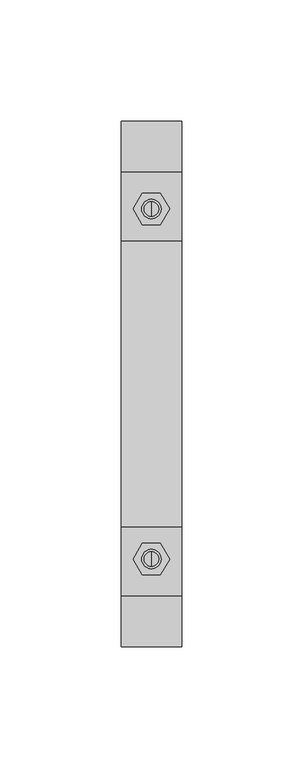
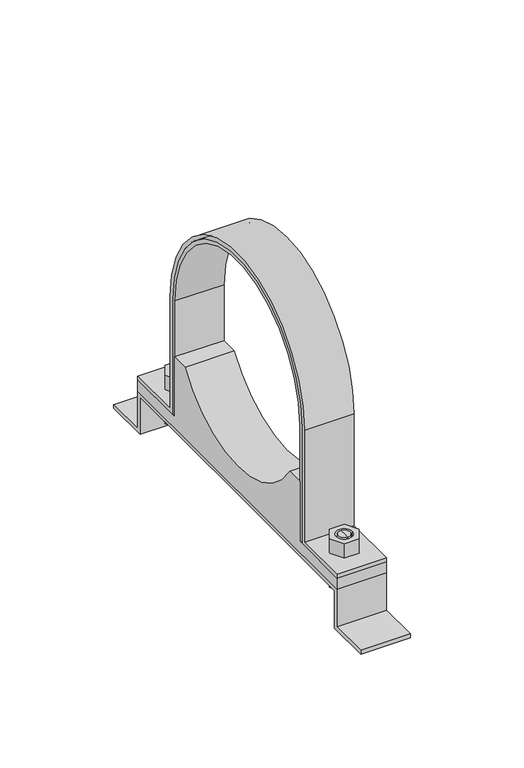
"""IFC4 building model written with IfcOpenShell, lengths in millimetres: valve geometry, Superfix DG3 Clamp : Superfix DG3 Clamp."""

import ifcopenshell
import ifcopenshell.guid

model = None  # the IFC model being written
_history = None  # IfcOwnerHistory: only IFC2X3 demands one
_inside = {}  # id of a spatial element -> (the spatial element, [elements in it])
_under = {}  # id of a project, library or spatial element -> (it, [spatial elements below it])
_declared = {}  # id of a project -> (the project, [libraries it declares])
_typed = {}  # id of a type object -> (the type object, [elements of that type])
_made_of = {}  # id of a material, layer set ... -> (it, [elements and type objects made of it])


def new_model(schema):
    """Start an empty IFC model of exactly this schema.

    Asked for "IFC4X3", IfcOpenShell would pick the latest addendum, in which some entities
    have other attributes; the version numbers below select the first issue.
    IFC2X3 requires an IfcOwnerHistory on every rooted entity: one is made here for all.
    """
    global model, _history
    if schema == "IFC4X3":
        model = ifcopenshell.file(schema_version=(4, 3, 0, 0))
    else:
        model = ifcopenshell.file(schema=schema)
    _inside.clear()
    _under.clear()
    _declared.clear()
    _typed.clear()
    _made_of.clear()
    _history = None
    if model.schema == "IFC2X3":
        org = make("IfcOrganization", Name="unknown")
        user = make(
            "IfcPersonAndOrganization",
            ThePerson=make("IfcPerson", FamilyName="unknown"),
            TheOrganization=org,
        )
        app = make(
            "IfcApplication",
            ApplicationDeveloper=org,
            Version="unknown",
            ApplicationFullName="unknown",
            ApplicationIdentifier="unknown",
        )
        _history = make(
            "IfcOwnerHistory",
            OwningUser=user,
            OwningApplication=app,
            ChangeAction="ADDED",
            CreationDate=0,
        )
    return model


def make(cls, **values):
    """One entity of the class cls with the attributes given. An attribute that is None is left unset."""
    return model.create_entity(
        cls, **{name: value for name, value in values.items() if value is not None}
    )


def rooted(cls, **values):
    """An entity with a GlobalId (a new one), such as an element, a storey or a relation."""
    return make(cls, GlobalId=ifcopenshell.guid.new(), OwnerHistory=_history, **values)


def si_unit(unit_type, name, prefix=None):
    """IfcSIUnit, for example si_unit("LENGTHUNIT", "METRE", prefix="MILLI")."""
    return make("IfcSIUnit", UnitType=unit_type, Prefix=prefix, Name=name)


def assignment(units):
    """IfcUnitAssignment: the units of a project."""
    return None if units is None else make("IfcUnitAssignment", Units=units)


def point(xyz):
    """IfcCartesianPoint."""
    return None if xyz is None else make("IfcCartesianPoint", Coordinates=xyz)


def direction(xyz):
    """IfcDirection."""
    return None if xyz is None else make("IfcDirection", DirectionRatios=xyz)


def frame(location, z_axis=None, x_axis=None):
    """IfcAxis2Placement3D, a coordinate frame: its origin and axes. An axis left out is left unset."""
    return make(
        "IfcAxis2Placement3D",
        Location=point(location),
        Axis=direction(z_axis),
        RefDirection=direction(x_axis),
    )


def frame_2d(location, x_axis=None):
    """IfcAxis2Placement2D, a coordinate frame in the plane: its origin and x axis."""
    return make(
        "IfcAxis2Placement2D", Location=point(location), RefDirection=direction(x_axis)
    )


def origin():
    """The frame at (0, 0, 0) with its axes left unset."""
    return frame((0.0, 0.0, 0.0))


def place(relative_to, where):
    """IfcLocalPlacement: puts the frame where relative to a parent placement (None: the world)."""
    return make(
        "IfcLocalPlacement", PlacementRelTo=relative_to, RelativePlacement=where
    )


def context(
    kind, dimensions, precision=None, world=None, true_north=None, identifier=None
):
    """IfcGeometricRepresentationContext, for example the 3D "Model" context."""
    return make(
        "IfcGeometricRepresentationContext",
        ContextIdentifier=identifier,
        ContextType=kind,
        CoordinateSpaceDimension=dimensions,
        Precision=precision,
        WorldCoordinateSystem=world,
        TrueNorth=true_north,
    )


def project(units=None, contexts=None):
    """IfcProject with its units and contexts."""
    return rooted(
        "IfcProject",
        Name="project",
        RepresentationContexts=contexts,
        UnitsInContext=assignment(units),
    )


def spatial(cls, under=None, at=None, **own):
    """A site, building, storey or space (cls), placed at a placement, below another one or the project."""
    s = rooted(cls, ObjectPlacement=at, **own)
    if under is not None:
        _under.setdefault(under.id(), (under, []))[1].append(s)
    return s


def polyline(points):
    """IfcPolyline through the points."""
    return make("IfcPolyline", Points=[point(p) for p in points])


def circle_curve(where, radius):
    """IfcCircle in the frame where."""
    return make("IfcCircle", Position=where, Radius=radius)


def trimmed(basis, trim1, trim2, sense, master):
    """IfcTrimmedCurve: the piece of a basis curve between two trims."""
    return make(
        "IfcTrimmedCurve",
        BasisCurve=basis,
        Trim1=trim1,
        Trim2=trim2,
        SenseAgreement=sense,
        MasterRepresentation=master,
    )


def segment(curve, same_sense, transition):
    """IfcCompositeCurveSegment."""
    return make(
        "IfcCompositeCurveSegment",
        Transition=transition,
        SameSense=same_sense,
        ParentCurve=curve,
    )


def composite_curve(segments, self_intersect=None):
    """IfcCompositeCurve: segments joined end to end."""
    return make("IfcCompositeCurve", Segments=segments, SelfIntersect=self_intersect)


def outline(outer, holes=None, kind="AREA"):
    """IfcArbitraryClosedProfileDef: a profile drawn as a closed curve; with holes, ...WithVoids."""
    if holes is None:
        return make("IfcArbitraryClosedProfileDef", ProfileType=kind, OuterCurve=outer)
    return make(
        "IfcArbitraryProfileDefWithVoids",
        ProfileType=kind,
        OuterCurve=outer,
        InnerCurves=holes,
    )


def extrude(swept, where, along, depth):
    """IfcExtrudedAreaSolid: the profile swept, set in the frame where, extruded along a direction by depth."""
    return make(
        "IfcExtrudedAreaSolid",
        SweptArea=swept,
        Position=where,
        ExtrudedDirection=direction(along),
        Depth=depth,
    )


def shape(context_of_items, identifier, shape_type, items):
    """IfcShapeRepresentation: the items that make up one representation, for example the "Body"."""
    return make(
        "IfcShapeRepresentation",
        ContextOfItems=context_of_items,
        RepresentationIdentifier=identifier,
        RepresentationType=shape_type,
        Items=items,
    )


def source(mapping_origin, context_of_items, identifier, shape_type, items):
    """IfcRepresentationMap: a shape defined once, which mapped items show again and again."""
    return make(
        "IfcRepresentationMap",
        MappingOrigin=mapping_origin,
        MappedRepresentation=shape(context_of_items, identifier, shape_type, items),
    )


def transform(
    local_origin,
    x_axis=None,
    y_axis=None,
    z_axis=None,
    scale=None,
    scale2=None,
    scale3=None,
    uniform=True,
):
    """IfcCartesianTransformationOperator3D, or its non-uniform kind. x_axis, y_axis, z_axis: its Axis1, 2, 3."""
    if uniform:
        return make(
            "IfcCartesianTransformationOperator3D",
            Axis1=direction(x_axis),
            Axis2=direction(y_axis),
            LocalOrigin=point(local_origin),
            Scale=scale,
            Axis3=direction(z_axis),
        )
    return make(
        "IfcCartesianTransformationOperator3DnonUniform",
        Axis1=direction(x_axis),
        Axis2=direction(y_axis),
        LocalOrigin=point(local_origin),
        Scale=scale,
        Axis3=direction(z_axis),
        Scale2=scale2,
        Scale3=scale3,
    )


def mapped(mapping_source, mapping_target):
    """IfcMappedItem: shows the shape of a source again, moved by a transform."""
    return make(
        "IfcMappedItem", MappingSource=mapping_source, MappingTarget=mapping_target
    )


def made_of(thing, what):
    """Note that an element or type object is made of a material, layer set ...; save() writes the relation."""
    if what is not None:
        _made_of.setdefault(what.id(), (what, []))[1].append(thing)
    return thing


def element(
    cls,
    number,
    at=None,
    inside=None,
    cuts=None,
    type_object=None,
    material=None,
    context=None,
    identifier="Body",
    shape_type=None,
    held_by="IfcProductDefinitionShape",
    body=None,
    shapes=None,
    **own,
):
    """One element of the class cls, such as IfcWall. Its Tag is "e" and its number.

    at: its placement. inside: the storey or other place that contains it. cuts: it is an
    opening in that element (IfcRelVoidsElement). A single representation is given by context,
    identifier, shape_type and body (its items); several are given by shapes. held_by: the class
    of the entity that holds the representations. save() writes the other relations.
    """
    e = rooted(cls, Tag="e%d" % number, ObjectPlacement=at, **own)
    if body is not None:
        shapes = [shape(context, identifier, shape_type, body)]
    if shapes is not None:
        e.Representation = make(held_by, Representations=shapes)
    if inside is not None:
        _inside.setdefault(inside.id(), (inside, []))[1].append(e)
    if cuts is not None:
        rooted(
            "IfcRelVoidsElement", RelatingBuildingElement=cuts, RelatedOpeningElement=e
        )
    if type_object is not None:
        _typed.setdefault(type_object.id(), (type_object, []))[1].append(e)
    return made_of(e, material)


def aggregate(whole, parts):
    """IfcRelAggregates: a whole, such as a stair, and the parts it consists of."""
    return rooted("IfcRelAggregates", RelatingObject=whole, RelatedObjects=parts)


def save(model, path):
    """Write the relations noted so far, then the file.

    IfcRelAggregates (storeys below a building ...), IfcRelContainedInSpatialStructure (elements
    in a storey), IfcRelDefinesByType, IfcRelAssociatesMaterial and IfcRelDeclares: one each for
    every whole, place, type object, material and project.
    """
    for whole, parts in _under.values():
        aggregate(whole, parts)
    for where, things in _inside.values():
        rooted(
            "IfcRelContainedInSpatialStructure",
            RelatedElements=things,
            RelatingStructure=where,
        )
    for kind, things in _typed.values():
        rooted("IfcRelDefinesByType", RelatedObjects=things, RelatingType=kind)
    for what, things in _made_of.values():
        rooted("IfcRelAssociatesMaterial", RelatedObjects=things, RelatingMaterial=what)
    for by, libraries in _declared.values():
        rooted("IfcRelDeclares", RelatingContext=by, RelatedDefinitions=libraries)
    model.write(path)


def plane_surface(at):
    """IfcPlane: the flat surface through the origin of the frame at, square to its z axis."""
    return make("IfcPlane", Position=at)


def cylinder_surface(at, radius):
    """IfcCylindricalSurface: all points at the distance radius from the z axis of the frame at."""
    return make("IfcCylindricalSurface", Position=at, Radius=radius)


def advanced_brep(points, edges, surfaces, faces):
    """IfcAdvancedBrep: a solid bounded by faces that lie on surfaces and meet in shared edges.

    An edge is (start, end): straight between two places in points (the first is 0);
    or (start, end, curve); or (start, end, curve, False) where it runs against its curve.
    A face is (place in surfaces, loops), or (place, loops, False) where it looks against
    its surface's normal. A loop lists edges by number (the first is 1), with a minus sign
    where the edge is run from its end to its start. The first loop is the outer one.
    """
    corners = [point(p) for p in points]
    vertices = [make("IfcVertexPoint", VertexGeometry=c) for c in corners]
    made = []
    for start, end, *more in edges:
        made.append(
            make(
                "IfcEdgeCurve",
                EdgeStart=vertices[start],
                EdgeEnd=vertices[end],
                EdgeGeometry=more[0] if more else make("IfcPolyline", Points=[corners[start], corners[end]]),
                SameSense=more[1] if len(more) > 1 else True,
            )
        )
    hull = []
    for where, loops, *sense in faces:
        bounds = []
        for j, loop in enumerate(loops):
            ring = [make("IfcOrientedEdge", EdgeElement=made[abs(k) - 1], Orientation=k > 0) for k in loop]
            bounds.append(
                make(
                    "IfcFaceOuterBound" if j == 0 else "IfcFaceBound",
                    Bound=make("IfcEdgeLoop", EdgeList=ring),
                    Orientation=True,
                )
            )
        hull.append(make("IfcAdvancedFace", Bounds=bounds, FaceSurface=surfaces[where], SameSense=sense[0] if sense else True))
    return make("IfcAdvancedBrep", Outer=make("IfcClosedShell", CfsFaces=hull))


def valve_9a4a9d4f(model_context):
    return source(origin(), model_context, "Body", "SolidModel", [
        advanced_brep(
        [(0.0, 75.25, 7.0), (0.0, 69.25, 7.0), (0.0, 69.25, 20.0), (0.0, 75.25, 20.0), (0.0, 72.25, 7.0)],
        [
            (0, 1, circle_curve(frame((0.0, 72.25, 7.0), z_axis=(0.0, 0.0, 1.0), x_axis=(0.0, 1.0, 0.0)), 3.0)),
            (1, 2),
            (2, 3, circle_curve(frame((0.0, 72.25, 20.0), z_axis=(0.0, 0.0, -1.0), x_axis=(0.0, 1.0, 0.0)), 3.0)),
            (3, 0),
            (1, 0, circle_curve(frame((0.0, 72.25, 7.0), z_axis=(0.0, 0.0, 1.0), x_axis=(0.0, 1.0, 0.0)), 3.0)),
            (3, 2, circle_curve(frame((0.0, 72.25, 20.0), z_axis=(0.0, 0.0, -1.0), x_axis=(0.0, 1.0, 0.0)), 3.0)),
            (0, 4),
            (4, 1),
        ],
        [
            cylinder_surface(frame((0.0, 72.25, 88.2806094), z_axis=(0.0, 0.0, 1.0), x_axis=(0.0, 1.0, 0.0)), 3.0),
            plane_surface(frame((0.0, 72.25, 7.0), z_axis=(0.0, 0.0, -1.0), x_axis=(0.0, 1.0, 0.0))),
            plane_surface(frame((13.75, -87.5, 20.0), z_axis=(0.0, 0.0, 1.0), x_axis=(-1.0, 0.0, 0.0))),
        ],
        [
            (0, [[1, 2, 3, 4]]),
            (0, [[5, -4, 6, -2]]),
            (1, [[-1, 7, 8]]),
            (1, [[-5, -8, -7]]),
            (2, [[-3, -6]]),
        ],
    ),
        advanced_brep(
        [(0.0, 69.25, 38.0), (0.0, 75.25, 38.0), (0.0, 75.25, 28.0), (0.0, 69.25, 28.0), (0.0, 72.25, 38.0)],
        [
            (0, 1, circle_curve(frame((0.0, 72.25, 38.0), z_axis=(0.0, 0.0, -1.0), x_axis=(0.0, 1.0, 0.0)), 3.0)),
            (1, 2),
            (2, 3, circle_curve(frame((0.0, 72.25, 28.0), z_axis=(0.0, 0.0, 1.0), x_axis=(0.0, 1.0, 0.0)), 3.0)),
            (3, 0),
            (1, 0, circle_curve(frame((0.0, 72.25, 38.0), z_axis=(0.0, 0.0, -1.0), x_axis=(0.0, 1.0, 0.0)), 3.0)),
            (3, 2, circle_curve(frame((0.0, 72.25, 28.0), z_axis=(0.0, 0.0, 1.0), x_axis=(0.0, 1.0, 0.0)), 3.0)),
            (0, 4),
            (4, 1),
        ],
        [
            cylinder_surface(frame((0.0, 72.25, 88.2806094), z_axis=(0.0, 0.0, 1.0), x_axis=(0.0, 1.0, 0.0)), 3.0),
            plane_surface(frame((0.0, 72.25, 38.0), z_axis=(0.0, 0.0, 1.0), x_axis=(0.0, 1.0, 0.0))),
            plane_surface(frame((13.75, 87.5, 28.0), z_axis=(0.0, 0.0, -1.0), x_axis=(-1.0, 0.0, 0.0))),
        ],
        [
            (0, [[1, 2, 3, 4]]),
            (0, [[5, -4, 6, -2]]),
            (1, [[-1, 7, 8]]),
            (1, [[-5, -8, -7]]),
            (2, [[-3, -6]]),
        ],
    ),
        advanced_brep(
        [(0.0, -75.25, 38.0), (0.0, -69.25, 38.0), (0.0, -69.25, 28.0), (0.0, -75.25, 28.0), (0.0, -72.25, 38.0)],
        [
            (0, 1, circle_curve(frame((0.0, -72.25, 38.0), z_axis=(0.0, 0.0, -1.0), x_axis=(0.0, -1.0, 0.0)), 3.0)),
            (1, 2),
            (2, 3, circle_curve(frame((0.0, -72.25, 28.0), z_axis=(0.0, 0.0, 1.0), x_axis=(0.0, -1.0, 0.0)), 3.0)),
            (3, 0),
            (1, 0, circle_curve(frame((0.0, -72.25, 38.0), z_axis=(0.0, 0.0, -1.0), x_axis=(0.0, -1.0, 0.0)), 3.0)),
            (3, 2, circle_curve(frame((0.0, -72.25, 28.0), z_axis=(0.0, 0.0, 1.0), x_axis=(0.0, -1.0, 0.0)), 3.0)),
            (0, 4),
            (4, 1),
        ],
        [
            cylinder_surface(frame((0.0, -72.25, 88.2806094), z_axis=(0.0, 0.0, -1.0), x_axis=(0.0, -1.0, 0.0)), 3.0),
            plane_surface(frame((0.0, -72.25, 38.0), z_axis=(0.0, 0.0, 1.0), x_axis=(0.0, -1.0, 0.0))),
            plane_surface(frame((13.75, 87.5, 28.0), z_axis=(0.0, 0.0, -1.0), x_axis=(-1.0, 0.0, 0.0))),
        ],
        [
            (0, [[1, 2, 3, 4]]),
            (0, [[5, -4, 6, -2]]),
            (1, [[-1, 7, 8]]),
            (1, [[-5, -8, -7]]),
            (2, [[-3, -6]]),
        ],
    ),
        advanced_brep(
        [(0.0, -69.25, 7.0), (0.0, -75.25, 7.0), (0.0, -75.25, 20.0), (0.0, -69.25, 20.0), (0.0, -72.25, 7.0)],
        [
            (0, 1, circle_curve(frame((0.0, -72.25, 7.0), z_axis=(0.0, 0.0, 1.0), x_axis=(0.0, -1.0, 0.0)), 3.0)),
            (1, 2),
            (2, 3, circle_curve(frame((0.0, -72.25, 20.0), z_axis=(0.0, 0.0, -1.0), x_axis=(0.0, -1.0, 0.0)), 3.0)),
            (3, 0),
            (1, 0, circle_curve(frame((0.0, -72.25, 7.0), z_axis=(0.0, 0.0, 1.0), x_axis=(0.0, -1.0, 0.0)), 3.0)),
            (3, 2, circle_curve(frame((0.0, -72.25, 20.0), z_axis=(0.0, 0.0, -1.0), x_axis=(0.0, -1.0, 0.0)), 3.0)),
            (0, 4),
            (4, 1),
        ],
        [
            cylinder_surface(frame((0.0, -72.25, 88.2806094), z_axis=(0.0, 0.0, -1.0), x_axis=(0.0, -1.0, 0.0)), 3.0),
            plane_surface(frame((0.0, -72.25, 7.0), z_axis=(0.0, 0.0, -1.0), x_axis=(0.0, -1.0, 0.0))),
            plane_surface(frame((13.75, -87.5, 20.0), z_axis=(0.0, 0.0, 1.0), x_axis=(-1.0, 0.0, 0.0))),
        ],
        [
            (0, [[1, 2, 3, 4]]),
            (0, [[5, -4, 6, -2]]),
            (1, [[-1, 7, 8]]),
            (1, [[-5, -8, -7]]),
            (2, [[-3, -6]]),
        ],
    ),
        extrude(outline(composite_curve([segment(trimmed(circle_curve(frame_2d((0.0, 90.0)), 57.0), [point((57.0, 90.0))], [point((-57.0, 90.0))], True, "CARTESIAN"), True, "CONTINUOUS"), segment(polyline([(-57.0, 90.0), (-57.0, 28.0), (-87.5, 28.0), (-87.5, 30.0), (-59.0, 30.0), (-59.0, 90.0)]), True, "CONTINUOUS"), segment(trimmed(circle_curve(frame_2d((0.0, 90.0)), 59.0), [point((-59.0, 90.0))], [point((59.0, 90.0))], False, "CARTESIAN"), True, "CONTINUOUS"), segment(polyline([(59.0, 90.0), (59.0, 30.0), (87.5, 30.0), (87.5, 28.0), (57.0, 28.0), (57.0, 90.0)]), True, "CONTINUOUS")], self_intersect=False)), frame((-12.5, 0.0, 0.0), z_axis=(1.0, 0.0, 0.0), x_axis=(0.0, 1.0, 0.0)), (0.0, 0.0, 1.0), 25.0),
        extrude(outline(polyline([(7.5055535, -72.25), (3.7527767, -78.75), (-3.7527767, -78.75), (-7.5055535, -72.25), (-3.7527767, -65.75), (3.7527767, -65.75), (7.5055535, -72.25)]), holes=[composite_curve([segment(trimmed(circle_curve(frame_2d((0.0, -72.25)), 4.0), [point((4.0, -72.25))], [point((-4.0, -72.25))], True, "CARTESIAN"), True, "CONTINUOUS"), segment(trimmed(circle_curve(frame_2d((0.0, -72.25)), 4.0), [point((-4.0, -72.25))], [point((4.0, -72.25))], True, "CARTESIAN"), True, "CONTINUOUS")], self_intersect=False)]), frame((0.0, 0.0, 30.0), z_axis=(0.0, 0.0, 1.0), x_axis=(1.0, 0.0, 0.0)), (0.0, 0.0, 1.0), 8.0),
        extrude(outline(polyline([(7.5055535, 72.25), (3.7527767, 65.75), (-3.7527767, 65.75), (-7.5055535, 72.25), (-3.7527767, 78.75), (3.7527767, 78.75), (7.5055535, 72.25)]), holes=[composite_curve([segment(trimmed(circle_curve(frame_2d((0.0, 72.25)), 4.0), [point((4.0, 72.25))], [point((-4.0, 72.25))], True, "CARTESIAN"), True, "CONTINUOUS"), segment(trimmed(circle_curve(frame_2d((0.0, 72.25)), 4.0), [point((-4.0, 72.25))], [point((4.0, 72.25))], True, "CARTESIAN"), True, "CONTINUOUS")], self_intersect=False)]), frame((0.0, 0.0, 30.0), z_axis=(0.0, 0.0, 1.0), x_axis=(1.0, 0.0, 0.0)), (0.0, 0.0, 1.0), 8.0),
        extrude(outline(polyline([(7.5055535, -72.25), (3.7527767, -78.75), (-3.7527767, -78.75), (-7.5055535, -72.25), (-3.7527767, -65.75), (3.7527767, -65.75), (7.5055535, -72.25)]), holes=[composite_curve([segment(trimmed(circle_curve(frame_2d((0.0, -72.25)), 4.0), [point((4.0, -72.25))], [point((-4.0, -72.25))], True, "CARTESIAN"), True, "CONTINUOUS"), segment(trimmed(circle_curve(frame_2d((0.0, -72.25)), 4.0), [point((-4.0, -72.25))], [point((4.0, -72.25))], True, "CARTESIAN"), True, "CONTINUOUS")], self_intersect=False)]), frame((0.0, 0.0, 12.0), z_axis=(0.0, 0.0, 1.0), x_axis=(1.0, 0.0, 0.0)), (0.0, 0.0, 1.0), 8.0),
        extrude(outline(polyline([(7.5055535, 72.25), (3.7527767, 65.75), (-3.7527767, 65.75), (-7.5055535, 72.25), (-3.7527767, 78.75), (3.7527767, 78.75), (7.5055535, 72.25)]), holes=[composite_curve([segment(trimmed(circle_curve(frame_2d((0.0, 72.25)), 4.0), [point((4.0, 72.25))], [point((-4.0, 72.25))], True, "CARTESIAN"), True, "CONTINUOUS"), segment(trimmed(circle_curve(frame_2d((0.0, 72.25)), 4.0), [point((-4.0, 72.25))], [point((4.0, 72.25))], True, "CARTESIAN"), True, "CONTINUOUS")], self_intersect=False)]), frame((0.0, 0.0, 12.0), z_axis=(0.0, 0.0, 1.0), x_axis=(1.0, 0.0, 0.0)), (0.0, 0.0, 1.0), 8.0),
        extrude(outline(composite_curve([segment(polyline([(-87.5, 22.0), (-87.5, 28.0), (-55.0, 28.0), (-55.0, 60.0), (-46.0977223, 60.0)]), True, "CONTINUOUS"), segment(trimmed(circle_curve(frame_2d((0.0, 90.0)), 55.0), [point((-46.0977223, 60.0))], [point((46.0977223, 60.0))], True, "CARTESIAN"), True, "CONTINUOUS"), segment(polyline([(46.0977223, 60.0), (55.0, 60.0), (55.0, 28.0), (87.5, 28.0), (87.5, 22.0), (-87.5, 22.0)]), True, "CONTINUOUS")], self_intersect=False)), frame((-12.5, 0.0, 0.0), z_axis=(1.0, 0.0, 0.0), x_axis=(0.0, 1.0, 0.0)), (0.0, 0.0, 1.0), 25.0),
        extrude(outline(polyline([(-108.5, 2.0), (-87.5, 2.0), (-87.5, 22.0), (0.0, 22.0), (87.5, 22.0), (87.5, 2.0), (108.5, 2.0), (108.5, 0.0), (85.5, 0.0), (85.5, 20.0), (0.0, 20.0), (-85.5, 20.0), (-85.5, 0.0), (-108.5, 0.0), (-108.5, 2.0)])), frame((-12.5, 0.0, 0.0), z_axis=(1.0, 0.0, 0.0), x_axis=(0.0, 1.0, 0.0)), (0.0, 0.0, 1.0), 25.0),
        extrude(outline(composite_curve([segment(trimmed(circle_curve(frame_2d((0.0, 90.0)), 55.0), [point((55.0, 90.0))], [point((-55.0, 90.0))], True, "CARTESIAN"), True, "CONTINUOUS"), segment(polyline([(-55.0, 90.0), (-55.0, 28.0), (-57.0, 28.0), (-57.0, 90.0)]), True, "CONTINUOUS"), segment(trimmed(circle_curve(frame_2d((0.0, 90.0)), 57.0), [point((-57.0, 90.0))], [point((57.0, 90.0))], False, "CARTESIAN"), True, "CONTINUOUS"), segment(polyline([(57.0, 90.0), (57.0, 28.0), (55.0, 28.0), (55.0, 90.0)]), True, "CONTINUOUS")], self_intersect=False)), frame((-12.5, 0.0, 0.0), z_axis=(1.0, 0.0, 0.0), x_axis=(0.0, 1.0, 0.0)), (0.0, 0.0, 1.0), 25.0),
    ])


if __name__ == "__main__":
    model = new_model("IFC4")
    model_context = context("Model", 3, world=origin())
    ifc_project = project(units=[si_unit("LENGTHUNIT", "METRE", prefix="MILLI")], contexts=[model_context])
    site = spatial("IfcSite", under=ifc_project)
    building = spatial("IfcBuilding", under=site)
    placement = place(None, origin())
    valve_shape = valve_9a4a9d4f(model_context)
    element("IfcValve", 1, ObjectType="Superfix DG3 Clamp : Superfix DG3 Clamp", at=placement, inside=building, context=model_context, shape_type="MappedRepresentation", body=[
        mapped(valve_shape, transform((0.0, 0.0, 0.0), x_axis=(1.0, 0.0, 0.0), y_axis=(0.0, 1.0, 0.0), z_axis=(0.0, 0.0, 1.0))),
    ])
    save(model, "model.ifc")
